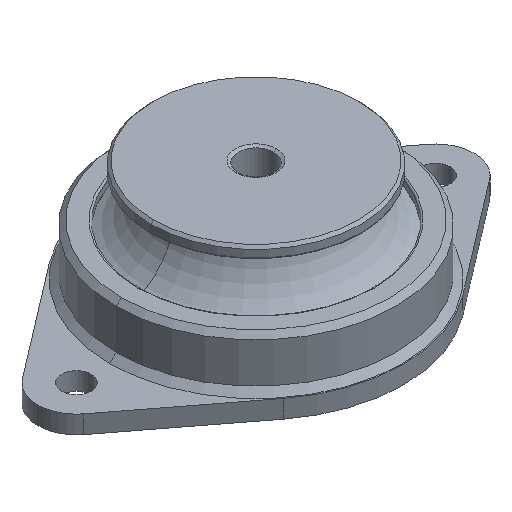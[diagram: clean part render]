
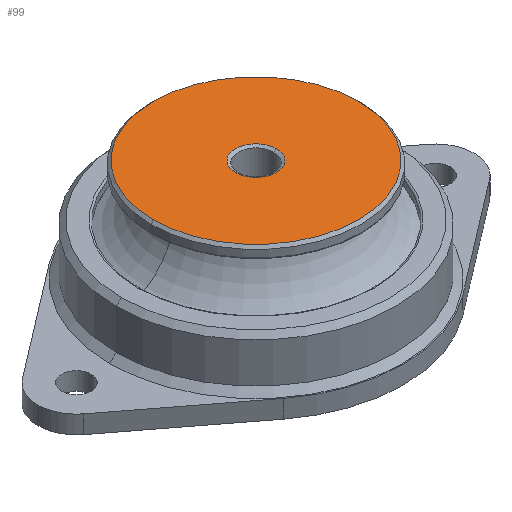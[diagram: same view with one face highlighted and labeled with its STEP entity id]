
A CAD part, isometric view. The second image highlights one B-rep face of the part: STEP entity #99.
In plain terms, the highlighted planar face has unit normal (0, 0, 1).
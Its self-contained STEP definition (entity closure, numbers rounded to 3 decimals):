
#99=ADVANCED_FACE('',(#228,#229),#230,.T.);
#228=FACE_OUTER_BOUND('',#373,.T.);
#229=FACE_BOUND('',#374,.T.);
#230=PLANE('',#375);
#373=EDGE_LOOP('',(#818,#819));
#374=EDGE_LOOP('',(#820,#821));
#375=AXIS2_PLACEMENT_3D('',#822,#823,#824);
#818=ORIENTED_EDGE('',*,*,#957,.F.);
#819=ORIENTED_EDGE('',*,*,#1068,.F.);
#820=ORIENTED_EDGE('',*,*,#1066,.T.);
#821=ORIENTED_EDGE('',*,*,#967,.T.);
#822=CARTESIAN_POINT('',(24.,0.,47.0));
#823=DIRECTION('',(0.0,0.,1.0));
#824=DIRECTION('',(-1.0,0.0,0.0));
#957=EDGE_CURVE('',#1138,#1140,#1141,.T.);
#967=EDGE_CURVE('',#1159,#1156,#1160,.T.);
#1066=EDGE_CURVE('',#1156,#1159,#1320,.T.);
#1068=EDGE_CURVE('',#1140,#1138,#1322,.T.);
#1138=VERTEX_POINT('',#1400);
#1140=VERTEX_POINT('',#1403);
#1141=CIRCLE('',#1404,40.0);
#1156=VERTEX_POINT('',#1424);
#1159=VERTEX_POINT('',#1428);
#1160=CIRCLE('',#1429,8.);
#1320=CIRCLE('',#1626,8.);
#1322=CIRCLE('',#1628,40.0);
#1400=CARTESIAN_POINT('',(40.0,0.,47.0));
#1403=CARTESIAN_POINT('',(-40.0,0.,47.0));
#1404=AXIS2_PLACEMENT_3D('',#1732,#1733,#1734);
#1424=CARTESIAN_POINT('',(8.,0.,47.0));
#1428=CARTESIAN_POINT('',(-8.,0.,47.0));
#1429=AXIS2_PLACEMENT_3D('',#1750,#1751,#1752);
#1626=AXIS2_PLACEMENT_3D('',#1973,#1974,#1975);
#1628=AXIS2_PLACEMENT_3D('',#1979,#1980,#1981);
#1732=CARTESIAN_POINT('',(0.0,0.,47.0));
#1733=DIRECTION('',(0.0,0.,-1.0));
#1734=DIRECTION('',(1.0,0.0,0.0));
#1750=CARTESIAN_POINT('',(0.0,0.,47.0));
#1751=DIRECTION('',(0.0,0.,-1.0));
#1752=DIRECTION('',(1.0,0.0,0.0));
#1973=CARTESIAN_POINT('',(0.0,0.,47.0));
#1974=DIRECTION('',(0.0,0.,-1.0));
#1975=DIRECTION('',(1.0,0.0,0.0));
#1979=CARTESIAN_POINT('',(0.0,0.,47.0));
#1980=DIRECTION('',(0.0,0.,-1.0));
#1981=DIRECTION('',(1.0,0.0,0.0));
